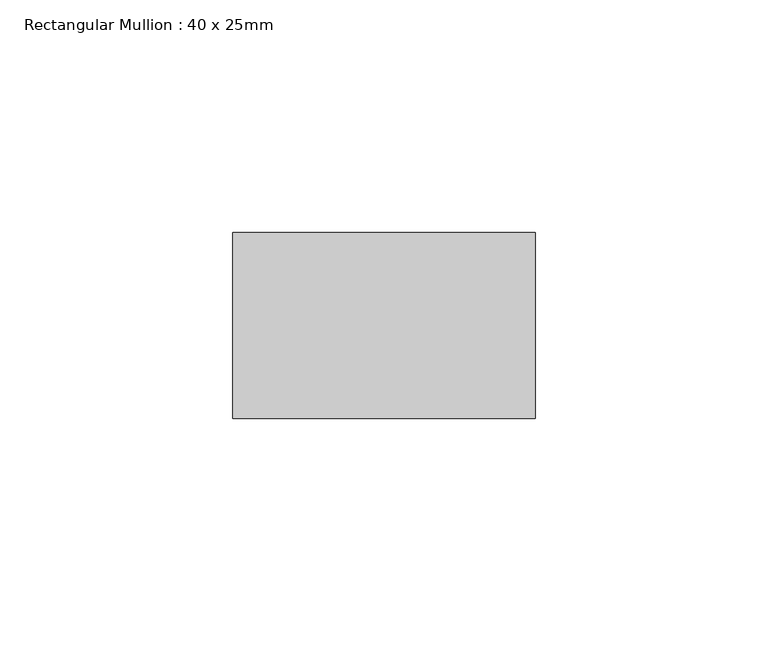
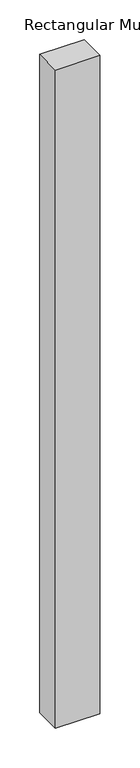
"""IFC4 building model written with IfcOpenShell, lengths in millimetres: member geometry, Rectangular Mullion : 40 x 25mm."""

from ifc_helpers import new_model, si_unit, frame, origin, place, context, project, spatial, polyline, outline, extrude, source, transform, mapped, element, save


def rectangular_mullion_40_x_25mm_1ce8f49d(model_context):
    return source(origin(), model_context, "Body", "SweptSolid", [
        extrude(outline(polyline([(0.0, -20.0), (0.0, -60.0), (-65.0, -60.0), (-65.0, -20.0), (0.0, -20.0)])), frame((0.0, 0.0, -1015.0), z_axis=(0.0, 0.0, 1.0), x_axis=(1.0, 0.0, 0.0)), (0.0, 0.0, 1.0), 1015.0),
    ])


if __name__ == "__main__":
    model = new_model("IFC4")
    model_context = context("Model", 3, world=origin())
    ifc_project = project(units=[si_unit("LENGTHUNIT", "METRE", prefix="MILLI")], contexts=[model_context])
    site = spatial("IfcSite", under=ifc_project)
    building = spatial("IfcBuilding", under=site)
    placement = place(None, origin())
    rectangular_mullion_40_x_25mm_shape = rectangular_mullion_40_x_25mm_1ce8f49d(model_context)
    element("IfcMember", 1, ObjectType="Rectangular Mullion : 40 x 25mm", at=placement, inside=building, context=model_context, shape_type="MappedRepresentation", body=[
        mapped(rectangular_mullion_40_x_25mm_shape, transform((0.0, 0.0, 0.0), x_axis=(1.0, 0.0, 0.0), y_axis=(0.0, 1.0, 0.0), z_axis=(0.0, 0.0, 1.0))),
    ])
    save(model, "model.ifc")
